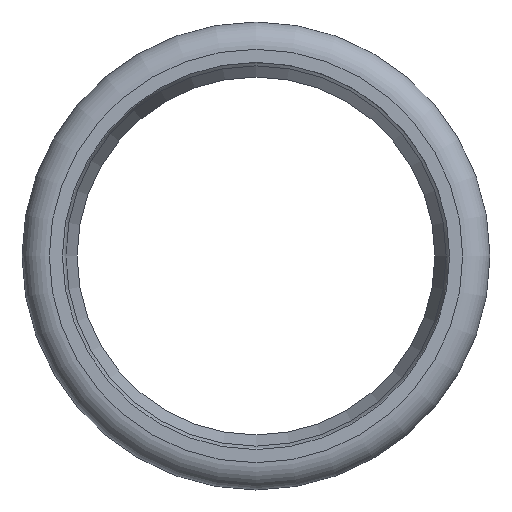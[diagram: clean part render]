
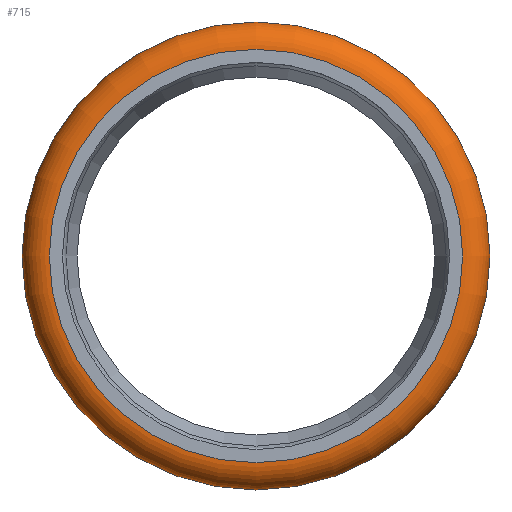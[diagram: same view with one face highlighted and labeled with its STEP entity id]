
A CAD part, left-side view. The second image highlights one B-rep face of the part: STEP entity #715.
In plain terms, the highlighted toroidal (fillet/blend) face has major radius 41.65 mm and minor radius 5.5 mm.
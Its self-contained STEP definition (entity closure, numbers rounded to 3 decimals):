
#629=CARTESIAN_POINT('',(-55.737,44.4,0.0));
#630=VERTEX_POINT('',#629);
#631=CARTESIAN_POINT('',(-55.737,0.,0.0));
#632=DIRECTION('',(1.0,0.0,0.0));
#633=DIRECTION('',(0.0,1.0,0.0));
#634=AXIS2_PLACEMENT_3D('',#631,#632,#633);
#635=CIRCLE('',#634,44.4);
#636=EDGE_CURVE('',#630,#630,#635,.T.);
#689=CARTESIAN_POINT('',(-66.,41.65,0.0));
#690=VERTEX_POINT('',#689);
#691=CARTESIAN_POINT('',(-66.0,0.,0.0));
#692=DIRECTION('',(1.0,0.0,0.0));
#693=DIRECTION('',(0.0,1.0,0.0));
#694=AXIS2_PLACEMENT_3D('',#691,#692,#693);
#695=CIRCLE('',#694,41.65);
#696=EDGE_CURVE('',#690,#690,#695,.T.);
#704=CARTESIAN_POINT('',(-60.5,0.,0.0));
#705=DIRECTION('',(1.0,0.,0.0));
#706=DIRECTION('',(0.0,0.0,-1.0));
#707=AXIS2_PLACEMENT_3D('',#704,#705,#706);
#708=TOROIDAL_SURFACE('',#707,41.65,5.5);
#709=ORIENTED_EDGE('',*,*,#636,.F.);
#710=EDGE_LOOP('',(#709));
#711=FACE_OUTER_BOUND('',#710,.T.);
#712=ORIENTED_EDGE('',*,*,#696,.T.);
#713=EDGE_LOOP('',(#712));
#714=FACE_BOUND('',#713,.T.);
#715=ADVANCED_FACE('',(#711,#714),#708,.T.);
